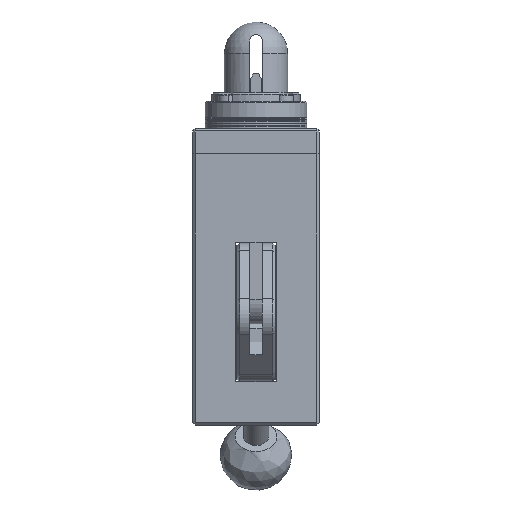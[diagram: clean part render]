
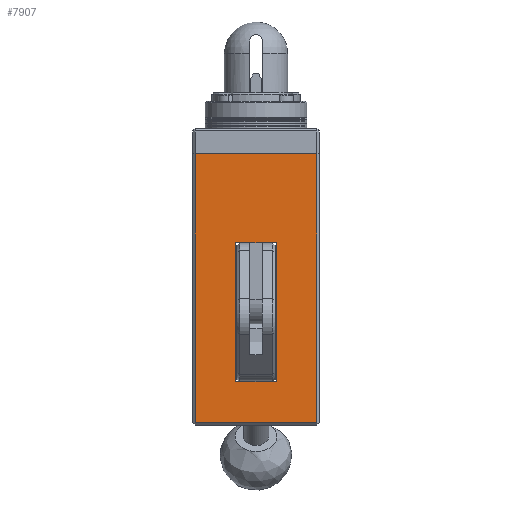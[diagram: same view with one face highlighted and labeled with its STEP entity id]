
A CAD part, left-side view. The second image highlights one B-rep face of the part: STEP entity #7907.
In plain terms, the highlighted planar face has unit normal (-1, 0, 0).
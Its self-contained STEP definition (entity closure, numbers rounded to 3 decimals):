
#239=FACE_BOUND('',#1257,.T.);
#471=PLANE('',#8693);
#768=FACE_OUTER_BOUND('',#1256,.T.);
#1256=EDGE_LOOP('',(#5938,#5939,#5940,#5941));
#1257=EDGE_LOOP('',(#5942,#5943,#5944,#5945));
#1712=LINE('',#12183,#2304);
#1719=LINE('',#12213,#2311);
#1745=LINE('',#12292,#2337);
#1748=LINE('',#12298,#2340);
#1790=LINE('',#12512,#2382);
#1798=LINE('',#12534,#2390);
#1810=LINE('',#12574,#2402);
#1811=LINE('',#12576,#2403);
#2304=VECTOR('',#9672,10.);
#2311=VECTOR('',#9701,10.);
#2337=VECTOR('',#9777,10.);
#2340=VECTOR('',#9782,10.);
#2382=VECTOR('',#10014,10.);
#2390=VECTOR('',#10036,10.);
#2402=VECTOR('',#10080,10.);
#2403=VECTOR('',#10083,10.);
#3427=VERTEX_POINT('',#12180);
#3428=VERTEX_POINT('',#12182);
#3439=VERTEX_POINT('',#12210);
#3440=VERTEX_POINT('',#12212);
#3468=VERTEX_POINT('',#12290);
#3470=VERTEX_POINT('',#12296);
#3547=VERTEX_POINT('',#12511);
#3554=VERTEX_POINT('',#12533);
#4276=EDGE_CURVE('',#3428,#3427,#1712,.T.);
#4290=EDGE_CURVE('',#3439,#3440,#1719,.T.);
#4327=EDGE_CURVE('',#3468,#3439,#1745,.T.);
#4330=EDGE_CURVE('',#3470,#3468,#1748,.T.);
#4433=EDGE_CURVE('',#3547,#3428,#1790,.T.);
#4443=EDGE_CURVE('',#3554,#3547,#1798,.T.);
#4461=EDGE_CURVE('',#3427,#3554,#1810,.T.);
#4462=EDGE_CURVE('',#3440,#3470,#1811,.T.);
#5938=ORIENTED_EDGE('',*,*,#4327,.F.);
#5939=ORIENTED_EDGE('',*,*,#4330,.F.);
#5940=ORIENTED_EDGE('',*,*,#4462,.F.);
#5941=ORIENTED_EDGE('',*,*,#4290,.F.);
#5942=ORIENTED_EDGE('',*,*,#4433,.T.);
#5943=ORIENTED_EDGE('',*,*,#4276,.T.);
#5944=ORIENTED_EDGE('',*,*,#4461,.T.);
#5945=ORIENTED_EDGE('',*,*,#4443,.T.);
#7907=ADVANCED_FACE('',(#768,#239),#471,.T.);
#8693=AXIS2_PLACEMENT_3D('',#12575,#10081,#10082);
#9672=DIRECTION('',(0.,0.,1.));
#9701=DIRECTION('',(0.,0.,1.));
#9777=DIRECTION('',(0.,1.,0.));
#9782=DIRECTION('',(0.,0.,-1.));
#10014=DIRECTION('',(0.,1.,0.));
#10036=DIRECTION('',(0.,0.,-1.));
#10080=DIRECTION('',(0.,-1.,0.));
#10081=DIRECTION('center_axis',(-1.,0.,0.));
#10082=DIRECTION('ref_axis',(0.,-1.,0.));
#10083=DIRECTION('',(0.,-1.,0.));
#12180=CARTESIAN_POINT('',(-36.509,7.434,18.5));
#12182=CARTESIAN_POINT('',(-36.509,7.434,-36.5));
#12183=CARTESIAN_POINT('',(-36.509,7.434,-45.));
#12210=CARTESIAN_POINT('',(-36.509,23.434,-52.5));
#12212=CARTESIAN_POINT('',(-36.509,23.434,53.5));
#12213=CARTESIAN_POINT('',(-36.509,23.434,-53.5));
#12290=CARTESIAN_POINT('',(-36.509,-24.566,-52.5));
#12292=CARTESIAN_POINT('',(-36.509,-6.816,-52.5));
#12296=CARTESIAN_POINT('',(-36.509,-24.566,53.5));
#12298=CARTESIAN_POINT('',(-36.509,-24.566,-53.5));
#12511=CARTESIAN_POINT('',(-36.509,-8.566,-36.5));
#12512=CARTESIAN_POINT('',(-36.509,-0.566,-36.5));
#12533=CARTESIAN_POINT('',(-36.509,-8.566,18.5));
#12534=CARTESIAN_POINT('',(-36.509,-8.566,-45.));
#12574=CARTESIAN_POINT('',(-36.509,-4.566,18.5));
#12575=CARTESIAN_POINT('Origin',(-36.509,-0.566,-53.5));
#12576=CARTESIAN_POINT('',(-36.509,-0.566,53.5));
